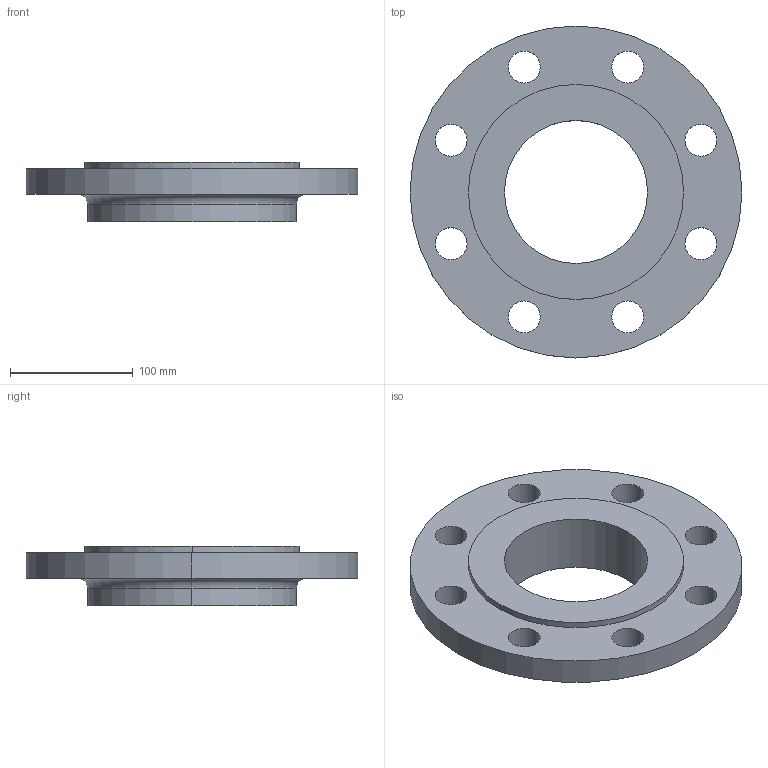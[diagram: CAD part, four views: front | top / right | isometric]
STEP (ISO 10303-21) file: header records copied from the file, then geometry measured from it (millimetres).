
FILE_DESCRIPTION (( 'STEP AP214' ), '1' );
FILE_NAME ('PN40 DN125 Type 13 - Type E Face.STEP', '2019-01-02T02:08:39', ( '' ), ( '' ), 'SwSTEP 2.0', 'SolidWorks 2019', '' );
FILE_SCHEMA (( 'AUTOMOTIVE_DESIGN' ));
Length unit declared in the file: millimetre
Products named in the file (1): PN40 DN125 Type 13 - Type E Face
Bounding box: 270 x 270 x 48 mm (x, y, z)
Volume: 1230022.3 mm3; surface area: 146527.5 mm2
Topology: 1 solids, 1 shells, 30 faces, 76 edges, 50 vertices
Faces by surface type: cylinder 24, plane 4, torus 2
Entity records: 1006 total; most frequent: DIRECTION 190, CARTESIAN_POINT 157, ORIENTED_EDGE 152, AXIS2_PLACEMENT_3D 83, EDGE_CURVE 76, CIRCLE 52, EDGE_LOOP 50, VERTEX_POINT 50
